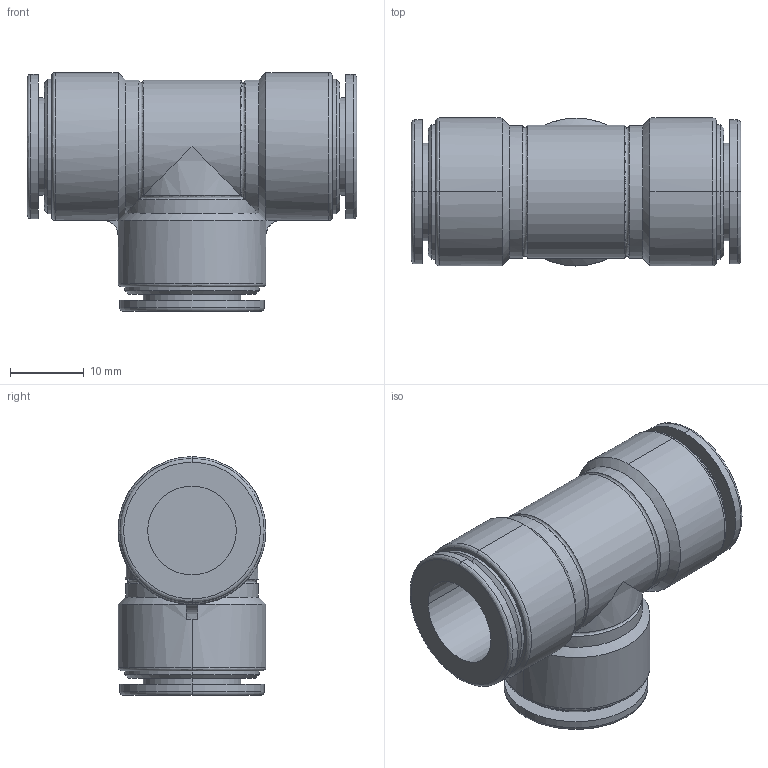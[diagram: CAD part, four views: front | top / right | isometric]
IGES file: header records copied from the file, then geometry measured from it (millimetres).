
Global section: file name: No Iges File Name specified; native system: AutoDesk Inventor R11.0; preprocessor: AutoDesk Inventor Iges Exporter R11.0; author: No Author specified; organization: No Organization specified; date: 20120321.162331; units: millimetre
Bounding box: 44.6 x 20 x 32.3 mm (x, y, z)
Volume: 11432.6 mm3; surface area: 6931.4 mm2
Topology: 1 solids, 1 shells, 92 faces, 216 edges, 138 vertices
Faces by surface type: bspline 47, cylinder 16, plane 14, torus 6, cone 5, revolution 4
